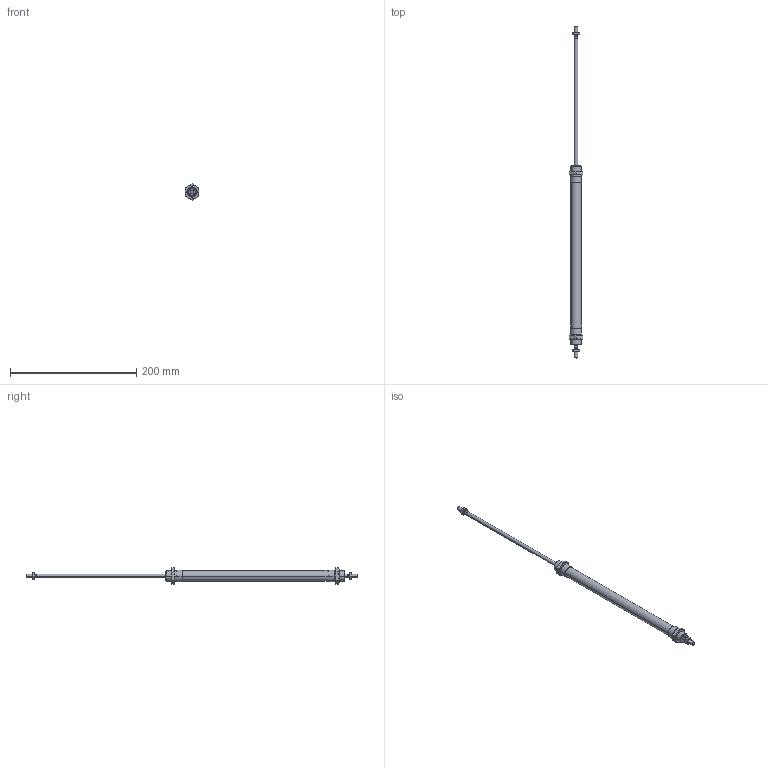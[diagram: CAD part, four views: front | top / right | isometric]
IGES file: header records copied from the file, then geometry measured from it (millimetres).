
Global section: file name: No Iges File Name specified; native system: AutoDesk Inventor R6.0; preprocessor: AutoDesk Inventor Iges Exporter R6.0; author: No Author specified; organization: No Organization specified; date: 20030403.072102; units: millimetre
Bounding box: 22 x 526 x 25.4 mm (x, y, z)
Volume: 68598 mm3; surface area: 33460.5 mm2
Topology: 6 solids, 6 shells, 180 faces, 388 edges, 228 vertices
Faces by surface type: cone 68, plane 56, bspline 30, cylinder 20, revolution 6
